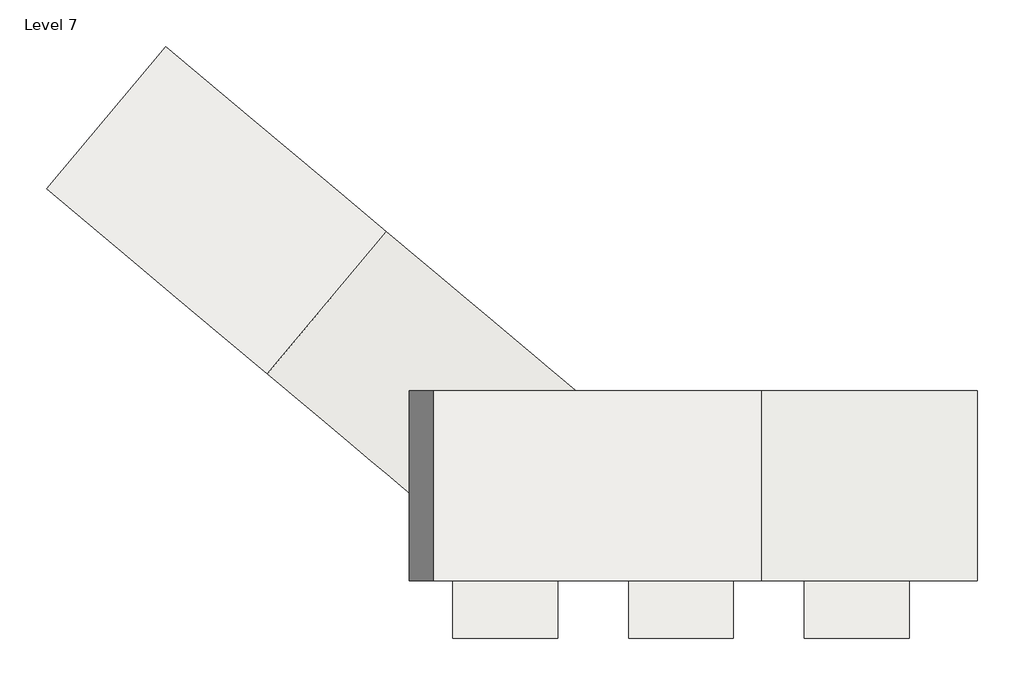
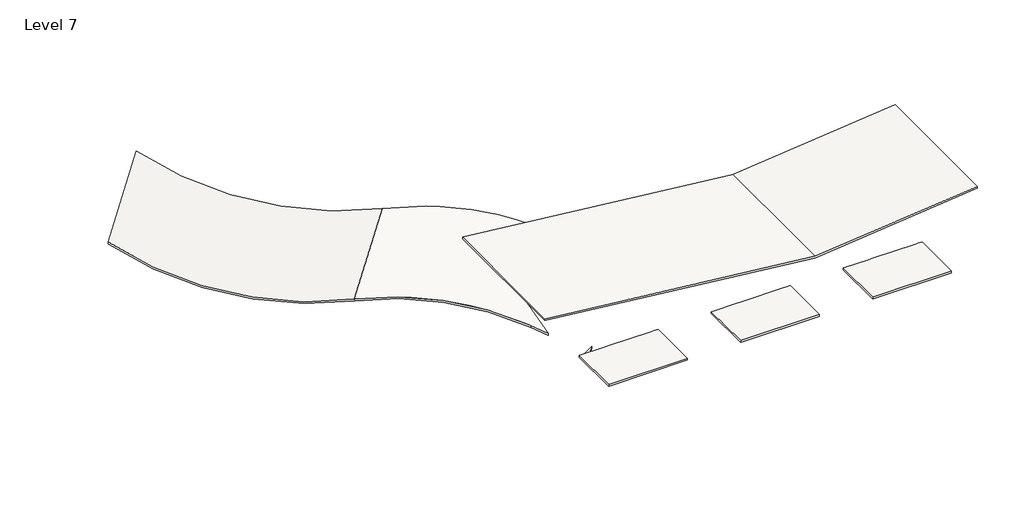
# One storey: 5 roofs.
"""IFC4 building model written with IfcOpenShell, lengths in millimetres."""

from ifc_helpers import new_model, si_unit, frame, origin, place, context, project, spatial, polyline, circle_curve, ellipse_curve, outline, extrude, faceted_brep, element, save
from ifc_brep_helpers import plane_surface, cylinder_surface, revolved_surface, advanced_brep

model = new_model("IFC4")

# Units and contexts
model_context = context("Model", 3, world=origin())
ifc_project = project(units=[si_unit("LENGTHUNIT", "METRE", prefix="MILLI")], contexts=[model_context])

# Site, building, storey
site = spatial("IfcSite", under=ifc_project)
building = spatial("IfcBuilding", under=site)
storey = spatial("IfcBuildingStorey", under=building, Name="Level 7", Elevation=18288.0)

# Roofs
placement = place(None, origin())
element("IfcRoof", 1, ObjectType="Generic - 12\"", at=placement, inside=storey, context=model_context, shape_type="SweptSolid", body=[
    extrude(outline(polyline([(19887.9232522, -22784.8847355), (19581.4443286, -22784.8847355), (15121.0057441, 19653.3535836), (17797.2688948, 45116.2965751), (18103.7478184, 45116.2965751), (15427.4846677, 19653.3535836), (19887.9232522, -22784.8847355)])), frame((0.0, -10531.6879393, 0.0), z_axis=(0.0, 1.0, 0.0), x_axis=(0.0, 0.0, 1.0)), (0.0, 0.0, 1.0), 22399.625),
])
element("IfcRoof", 2, ObjectType="Generic - 12\"", at=placement, inside=storey, context=model_context, shape_type="Brep", body=[
    faceted_brep([(16336.6738427, -17354.7629393, 11017.5344776), (3992.2738427, -17354.7629393, 11017.5344776), (3992.2738427, -17354.7629393, 10712.7344776), (16336.6738427, -17354.7629393, 10712.7344776), (16336.6738427, -9429.9629393, 11017.5344776), (16336.6738427, -9429.9629393, 10712.7344776), (15750.8863427, -9429.9629393, 10712.7344776), (15398.4613427, -9429.9629393, 10712.7344776), (8435.6863427, -9429.9629393, 10712.7344776), (8083.2613427, -9429.9629393, 10712.7344776), (3992.2738427, -9429.9629393, 10712.7344776), (3992.2738427, -9429.9629393, 11017.5344776), (8083.2613427, -9429.9629393, 11017.5344776), (8435.6863427, -9429.9629393, 11017.5344776), (15398.4613427, -9429.9629393, 11017.5344776), (15750.8863427, -9429.9629393, 11017.5344776)], [[[0, 1, 2, 3]], [[4, 5, 6, 7, 8, 9, 10, 11, 12, 13, 14, 15]], [[1, 0, 4, 15, 14, 13, 12, 11]], [[2, 1, 11, 10]], [[3, 2, 10, 9, 8, 7, 6, 5]], [[0, 3, 5, 4]]]),
])
element("IfcRoof", 3, ObjectType="Generic - 12\"", at=placement, inside=storey, context=model_context, shape_type="Brep", body=[
    faceted_brep([(-4389.7261573, -17354.7629393, 11017.5344776), (-16734.1261573, -17354.7629393, 11017.5344776), (-16734.1261573, -17354.7629393, 10712.7344776), (-4389.7261573, -17354.7629393, 10712.7344776), (-4389.7261573, -9429.9629393, 11017.5344776), (-4389.7261573, -9429.9629393, 10712.7344776), (-4975.5136573, -9429.9629393, 10712.7344776), (-5327.9386573, -9429.9629393, 10712.7344776), (-12290.7136573, -9429.9629393, 10712.7344776), (-12643.1386573, -9429.9629393, 10712.7344776), (-16734.1261573, -9429.9629393, 10712.7344776), (-16734.1261573, -9429.9629393, 11017.5344776), (-12643.1386573, -9429.9629393, 11017.5344776), (-12290.7136573, -9429.9629393, 11017.5344776), (-5327.9386573, -9429.9629393, 11017.5344776), (-4975.5136573, -9429.9629393, 11017.5344776)], [[[0, 1, 2, 3]], [[4, 5, 6, 7, 8, 9, 10, 11, 12, 13, 14, 15]], [[1, 0, 4, 15, 14, 13, 12, 11]], [[2, 1, 11, 10]], [[3, 2, 10, 9, 8, 7, 6, 5]], [[0, 3, 5, 4]]]),
])
element("IfcRoof", 4, ObjectType="Generic - 12\"", at=placement, inside=storey, context=model_context, shape_type="Brep", body=[
    faceted_brep([(37063.0738427, -17354.7629393, 11017.5344776), (24718.6738427, -17354.7629393, 11017.5344776), (24718.6738427, -17354.7629393, 10712.7344776), (37063.0738427, -17354.7629393, 10712.7344776), (37063.0738427, -9429.9629393, 11017.5344776), (37063.0738427, -9429.9629393, 10712.7344776), (36477.2863427, -9429.9629393, 10712.7344776), (36124.8613427, -9429.9629393, 10712.7344776), (29162.0863427, -9429.9629393, 10712.7344776), (28809.6613427, -9429.9629393, 10712.7344776), (24718.6738427, -9429.9629393, 10712.7344776), (24718.6738427, -9429.9629393, 11017.5344776), (28809.6613427, -9429.9629393, 11017.5344776), (29162.0863427, -9429.9629393, 11017.5344776), (36124.8613427, -9429.9629393, 11017.5344776), (36477.2863427, -9429.9629393, 11017.5344776)], [[[0, 1, 2, 3]], [[4, 5, 6, 7, 8, 9, 10, 11, 12, 13, 14, 15]], [[1, 0, 4, 15, 14, 13, 12, 11]], [[2, 1, 11, 10]], [[3, 2, 10, 9, 8, 7, 6, 5]], [[0, 3, 5, 4]]]),
])
element("IfcRoof", 5, ObjectType="Generic - 12\"", at=placement, inside=storey, context=model_context, shape_type="AdvancedBrep", body=[
    advanced_brep(
    [(-24529.0653974, 30564.2184599, 13609.0302353), (-5906.1630634, 14937.74798, 12171.5943549), (-896.8819684, 10734.4620607, 8771.8385101), (-18129.5386573, 10734.4620607, 14173.613914), (-18129.5386573, -3355.0139472, 11110.1731306), (-19963.9942969, -1815.7228966, 12171.5943549), (-38586.8966309, 13810.7475833, 13609.0302353), (-64662.6534146, 35690.9054831, 18904.3338339), (-50604.8221811, 52444.3763597, 18904.3338339), (-38648.017134, 13862.0337749, 13903.2020399), (-19963.9942969, -1815.7228966, 12499.988781), (-18129.5386573, -3355.0139472, 11448.5959768), (-18129.5386573, 10734.4620607, 14484.6188471), (-896.8819684, 10734.4620607, 9134.6580689), (-5906.1630634, 14937.74798, 12499.988781), (-24590.1859005, 30615.5046515, 13903.2020399), (-50604.8221811, 52444.3763597, 19267.7405373), (-64662.6534146, 35690.9054831, 19267.7405373)],
    [
        (0, 1, circle_curve(frame((-16857.4893032, 24127.0017887, -23314.1178127), z_axis=(0.6427876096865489, 0.76604444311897, 0.0), x_axis=(0.76604444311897, -0.6427876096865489, 0.0)), 38257.1522727)),
        (1, 2, circle_curve(frame((-16857.4893032, 24127.0017887, -23314.1178127), z_axis=(0.6427876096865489, 0.76604444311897, 0.0), x_axis=(0.76604444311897, -0.6427876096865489, 0.0)), 38257.1522727)),
        (2, 3, ellipse_curve(frame((-28095.1644496, 10734.4620607, -23314.1178127), z_axis=(0.0, -1.0, 0.0), x_axis=(-0.9999999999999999, 0.0, 0.0)), 49941.1654458, 38257.1522727)),
        (3, 4, ellipse_curve(frame((-18129.5386573, 22611.0324011, -23314.1178127), z_axis=(1.0, 0.0, 0.0), x_axis=(0.0, -1.0, 0.0)), 59517.5633384, 38257.1522727)),
        (4, 5, circle_curve(frame((-30915.3205367, 7373.5309121, -23314.1178127), z_axis=(-0.6427876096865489, -0.76604444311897, 0.0), x_axis=(0.76604444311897, -0.6427876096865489, 0.0)), 38257.1522727)),
        (5, 6, circle_curve(frame((-30915.3205367, 7373.5309121, -23314.1178127), z_axis=(-0.6427876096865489, -0.76604444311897, 0.0), x_axis=(0.76604444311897, -0.6427876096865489, 0.0)), 38257.1522727)),
        (6, 0),
        (6, 7, circle_curve(frame((-47073.0219634, 20931.45222, 54452.5880861), z_axis=(0.642787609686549, 0.76604444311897, 0.0), x_axis=(0.76604444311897, -0.642787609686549, 0.0)), 42319.2033904)),
        (7, 8),
        (8, 0, circle_curve(frame((-33015.19073, 37684.9230966, 54452.5880861), z_axis=(-0.642787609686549, -0.76604444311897, 0.0), x_axis=(0.76604444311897, -0.642787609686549, 0.0)), 42319.2033904)),
        (9, 10, circle_curve(frame((-30915.3205367, 7373.5309121, -23314.1178127), z_axis=(0.6427876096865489, 0.76604444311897, 0.0), x_axis=(0.76604444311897, -0.6427876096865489, 0.0)), 38561.9522727)),
        (10, 11, circle_curve(frame((-30915.3205367, 7373.5309121, -23314.1178127), z_axis=(0.6427876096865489, 0.76604444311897, 0.0), x_axis=(0.76604444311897, -0.6427876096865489, 0.0)), 38561.9522727)),
        (11, 12, ellipse_curve(frame((-18129.5386573, 22611.0324011, -23314.1178127), z_axis=(-1.0, 0.0, 0.0), x_axis=(0.0, -1.0, 0.0)), 59991.7479608, 38561.9522727)),
        (12, 13, ellipse_curve(frame((-28095.1644496, 10734.4620607, -23314.1178127), z_axis=(0.0, 1.0, 0.0), x_axis=(-0.9999999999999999, 0.0, 0.0)), 50339.0535876, 38561.9522727)),
        (13, 14, circle_curve(frame((-16857.4893032, 24127.0017887, -23314.1178127), z_axis=(-0.6427876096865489, -0.76604444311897, 0.0), x_axis=(0.76604444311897, -0.6427876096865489, 0.0)), 38561.9522727)),
        (14, 15, circle_curve(frame((-16857.4893032, 24127.0017887, -23314.1178127), z_axis=(-0.6427876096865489, -0.76604444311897, 0.0), x_axis=(0.76604444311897, -0.6427876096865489, 0.0)), 38561.9522727)),
        (15, 9),
        (15, 16, circle_curve(frame((-33015.19073, 37684.9230966, 54452.5880861), z_axis=(0.642787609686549, 0.76604444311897, 0.0), x_axis=(0.76604444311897, -0.642787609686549, 0.0)), 42014.4033904)),
        (16, 17),
        (17, 9, circle_curve(frame((-47073.0219634, 20931.45222, 54452.5880861), z_axis=(-0.642787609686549, -0.76604444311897, 0.0), x_axis=(0.76604444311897, -0.642787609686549, 0.0)), 42014.4033904)),
        (1, 14),
        (13, 2),
        (0, 15),
        (8, 16),
        (7, 17),
        (6, 9),
        (5, 10),
        (4, 11),
        (3, 12),
    ],
    [
        revolved_surface(polyline([(-19422.972079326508, -38447.98486483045, -23314.1178127), (40483.81915877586, 32946.148813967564, -23314.1178127)]), (-17543.2151253, 23309.7855768, -23314.1178127), (-0.6427876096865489, -0.76604444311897, 0.0)),
        cylinder_surface(frame((-33700.916552, 36867.7068846, 54452.5880861), z_axis=(0.6427876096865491, 0.7660444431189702, 0.0), x_axis=(0.76604444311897, -0.642787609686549, 0.0)), 42319.2033904),
        cylinder_surface(frame((-17543.2151253, 23309.7855768, -23314.1178127), z_axis=(-0.6427876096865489, -0.76604444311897, 0.0), x_axis=(0.76604444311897, -0.6427876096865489, 0.0)), 38561.9522727),
        revolved_surface(polyline([(-830.290481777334, 10678.585168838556, 54452.5880861), (-14888.121715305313, -6074.885707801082, 54452.5880861)]), (-33700.916552, 36867.7068846, 54452.5880861), (0.6427876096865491, 0.7660444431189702, 0.0)),
        plane_surface(frame((-16857.4893032, 24127.0017887, -23314.1178127), z_axis=(0.6427876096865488, 0.76604444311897, 0.0), x_axis=(0.76604444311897, -0.6427876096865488, 0.0))),
        plane_surface(frame((-33015.19073, 37684.9230966, 54452.5880861), z_axis=(0.6427876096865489, 0.76604444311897, 0.0), x_axis=(0.76604444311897, -0.6427876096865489, 0.0))),
        plane_surface(frame((-51290.5480031, 51627.1601478, 15522.824296), z_axis=(-0.7660444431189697, 0.6427876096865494, 0.0), x_axis=(-0.6427876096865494, -0.7660444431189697, 0.0))),
        plane_surface(frame((-47073.0219634, 20931.45222, 54452.5880861), z_axis=(-0.6427876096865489, -0.76604444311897, 0.0), x_axis=(0.76604444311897, -0.6427876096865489, 0.0))),
        plane_surface(frame((-30915.3205367, 7373.5309121, -23314.1178127), z_axis=(-0.6427876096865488, -0.76604444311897, 0.0), x_axis=(0.76604444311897, -0.6427876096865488, 0.0))),
        plane_surface(frame((-18129.5386573, 10734.4620607, 40071.2770933), z_axis=(1.0, 0.0, 0.0), x_axis=(0.0, 0.0, -1.0))),
        plane_surface(frame((8175.3363427, 10734.4620607, 40071.2770933), z_axis=(0.0, -1.0, 0.0), x_axis=(0.0, 0.0, -1.0))),
    ],
    [
        (0, [[1, 2, 3, 4, 5, 6, 7]]),
        (1, [[-7, 8, 9, 10]]),
        (2, [[11, 12, 13, 14, 15, 16, 17]]),
        (3, [[-17, 18, 19, 20]]),
        (4, [[21, -15, 22, -2]]),
        (4, [[-1, 23, -16, -21]]),
        (5, [[-10, 24, -18, -23]]),
        (6, [[-9, 25, -19, -24]]),
        (7, [[-8, 26, -20, -25]]),
        (8, [[-6, 27, -11, -26]]),
        (8, [[-27, -5, 28, -12]]),
        (9, [[29, -13, -28, -4]]),
        (10, [[-29, -3, -22, -14]]),
    ],
),
    advanced_brep(
    [(-13897.0806577, -6906.4678937, 7831.8425279), (-14346.092989, -6529.701812, 8241.7139511), (-12201.4435799, -4885.6863145, 7831.8425279), (-13897.0806577, -6906.4678937, 8205.4841614), (-12201.4435799, -4885.6863145, 8205.4841614), (-14346.092989, -6529.701812, 8610.5588712)],
    [
        (0, 1, circle_curve(frame((-30915.3205367, 7373.5309121, -23314.1178127), z_axis=(-0.6427876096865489, -0.76604444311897, 0.0), x_axis=(0.76604444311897, -0.6427876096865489, 0.0)), 38257.1522727)),
        (1, 2, ellipse_curve(frame((-93486.868397, -67196.3360445, -23314.1178127), z_axis=(-0.608381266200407, 0.7936449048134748, 0.0), x_axis=(-0.7936449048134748, -0.608381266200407, 0.0)), 176375.5627929, 38257.1522727)),
        (2, 0),
        (3, 4),
        (4, 5, ellipse_curve(frame((-93486.868397, -67196.3360445, -23314.1178127), z_axis=(0.608381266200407, -0.7936449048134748, 0.0), x_axis=(-0.7936449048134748, -0.608381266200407, 0.0)), 177780.7711878, 38561.9522727)),
        (5, 3, circle_curve(frame((-30915.3205367, 7373.5309121, -23314.1178127), z_axis=(0.6427876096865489, 0.76604444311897, 0.0), x_axis=(0.76604444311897, -0.6427876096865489, 0.0)), 38561.9522727)),
        (3, 0),
        (2, 4),
        (5, 1),
    ],
    [
        revolved_surface(polyline([(-174853.0773251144, -223682.3711887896, -23314.1178127), (46492.698347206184, 40107.25217424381, -23314.1178127)]), (-17543.2151253, 23309.7855768, -23314.1178127), (-0.6427876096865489, -0.76604444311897, 0.0)),
        cylinder_surface(frame((-17543.2151253, 23309.7855768, -23314.1178127), z_axis=(-0.6427876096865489, -0.76604444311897, 0.0), x_axis=(0.76604444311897, -0.6427876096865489, 0.0)), 38561.9522727),
        plane_surface(frame((-13213.9642294, -6092.3614362, 11528.4454611), z_axis=(0.76604444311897, -0.6427876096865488, 0.0), x_axis=(0.6427876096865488, 0.76604444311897, 0.0))),
        plane_surface(frame((-30915.3205367, 7373.5309121, -23314.1178127), z_axis=(-0.6427876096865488, -0.76604444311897, 0.0), x_axis=(0.76604444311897, -0.6427876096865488, 0.0))),
        plane_surface(frame((-18129.5386573, -9429.9629393, 40071.2770933), z_axis=(-0.608381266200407, 0.7936449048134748, 0.0), x_axis=(0.0, 0.0, -1.0))),
    ],
    [
        (0, [[1, 2, 3]]),
        (1, [[4, 5, 6]]),
        (2, [[7, -3, 8, -4]]),
        (3, [[-7, -6, 9, -1]]),
        (4, [[-2, -9, -5, -8]]),
    ],
),
])

save(model, "model.ifc")
